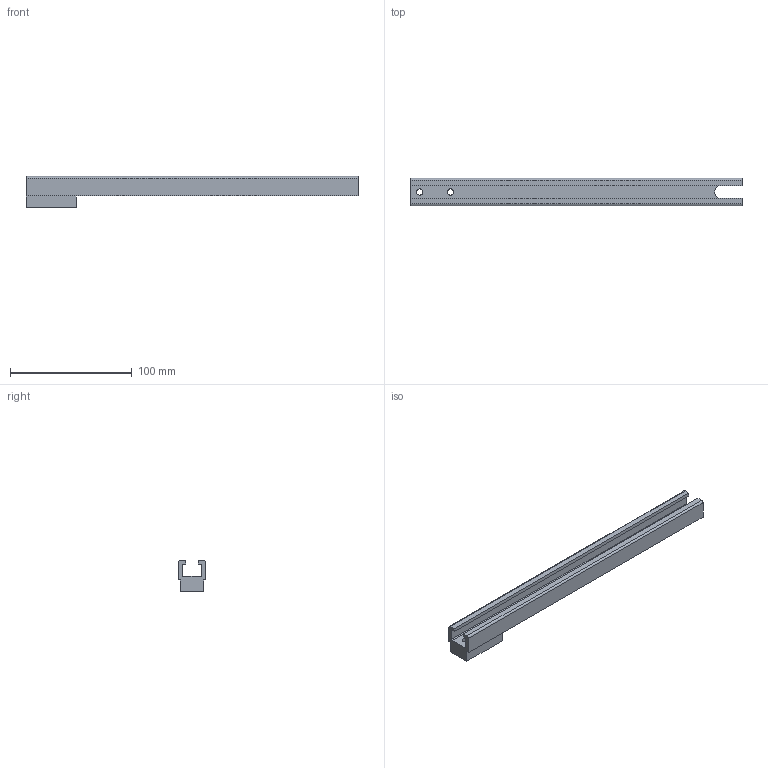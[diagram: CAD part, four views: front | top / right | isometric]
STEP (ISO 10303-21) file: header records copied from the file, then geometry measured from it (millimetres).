
FILE_DESCRIPTION((''),'2;1');
FILE_NAME('307000MAL','2016-06-24T',('adam.dellomodarme'),(''),'PRO/ENGINEER BY PARAMETRIC TECHNOLOGY CORPORATION, 2012420','PRO/ENGINEER BY PARAMETRIC TECHNOLOGY CORPORATION, 2012420','');
FILE_SCHEMA(('CONFIG_CONTROL_DESIGN'));
Length unit declared in the file: inch
Products named in the file (1): 307000MAL
Bounding box: 273.05 x 22.4 x 25.58 mm (x, y, z)
Volume: 50558.6 mm3; surface area: 32221.4 mm2
Topology: 1 solids, 1 shells, 30 faces, 84 edges, 56 vertices
Faces by surface type: plane 21, cylinder 9
Entity records: 1014 total; most frequent: CARTESIAN_POINT 170, ORIENTED_EDGE 168, DIRECTION 162, EDGE_CURVE 84, VECTOR 66, LINE 66, VERTEX_POINT 56, AXIS2_PLACEMENT_3D 48
